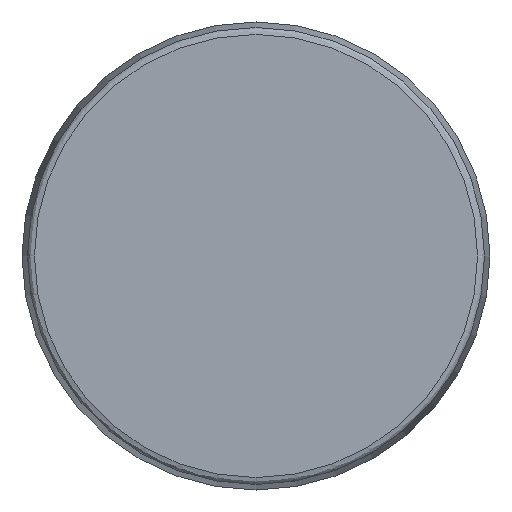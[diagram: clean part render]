
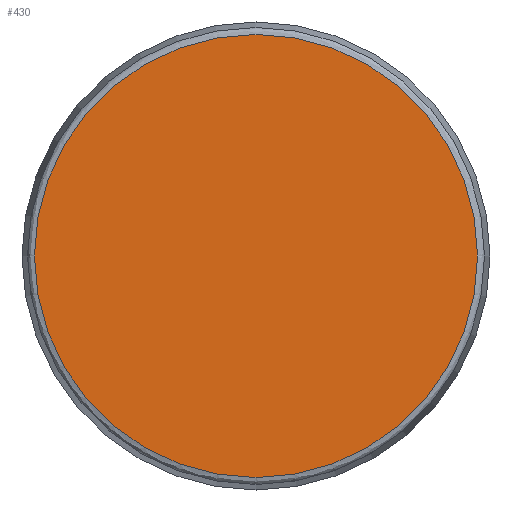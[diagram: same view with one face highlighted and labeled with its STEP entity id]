
A CAD part, left-side view. The second image highlights one B-rep face of the part: STEP entity #430.
In plain terms, the highlighted planar face has unit normal (-1, 0, 0).
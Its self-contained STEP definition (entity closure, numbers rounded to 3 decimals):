
#392=CARTESIAN_POINT('',(-392.302,-488.109,11.143));
#393=VERTEX_POINT('',#392);
#401=CARTESIAN_POINT('',(-392.302,-488.109,-64.598));
#402=VERTEX_POINT('',#401);
#403=CARTESIAN_POINT('',(-392.302,-488.109,-26.727));
#404=DIRECTION('',(-1.0,0.0,0.));
#405=DIRECTION('',(0.,0.0,1.0));
#406=AXIS2_PLACEMENT_3D('',#403,#404,#405);
#407=CIRCLE('',#406,37.87);
#408=EDGE_CURVE('',#402,#393,#407,.T.);
#410=CARTESIAN_POINT('',(-392.302,-488.109,-26.727));
#411=DIRECTION('',(-1.0,0.0,0.));
#412=DIRECTION('',(0.,0.0,1.0));
#413=AXIS2_PLACEMENT_3D('',#410,#411,#412);
#414=CIRCLE('',#413,37.87);
#415=EDGE_CURVE('',#393,#402,#414,.T.);
#421=CARTESIAN_POINT('',(-392.302,-563.85,49.013));
#422=DIRECTION('',(-1.0,0.0,0.0));
#423=DIRECTION('',(0.0,1.0,0.0));
#424=AXIS2_PLACEMENT_3D('',#421,#422,#423);
#425=PLANE('',#424);
#426=ORIENTED_EDGE('',*,*,#415,.T.);
#427=ORIENTED_EDGE('',*,*,#408,.T.);
#428=EDGE_LOOP('',(#426,#427));
#429=FACE_OUTER_BOUND('',#428,.T.);
#430=ADVANCED_FACE('',(#429),#425,.T.);
